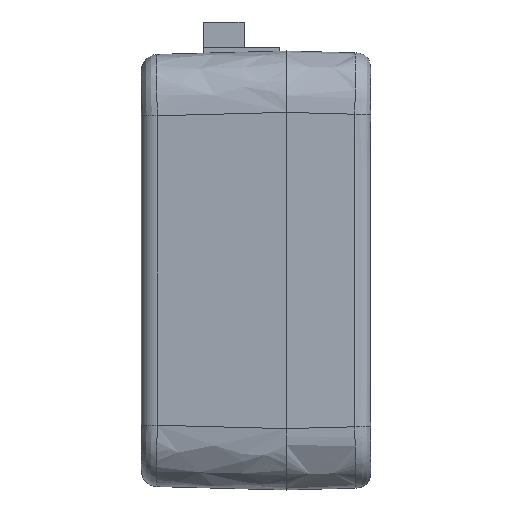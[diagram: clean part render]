
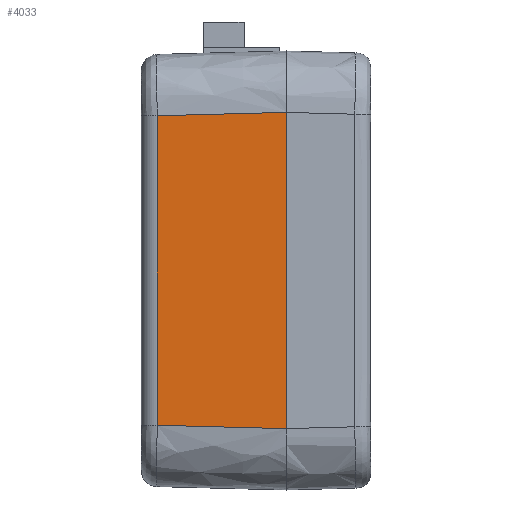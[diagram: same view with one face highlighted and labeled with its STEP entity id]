
A CAD part, left-side view. The second image highlights one B-rep face of the part: STEP entity #4033.
In plain terms, the highlighted planar face has unit normal (-1, 0.026, 0) as drawn and (1, -0.026, 0) by its records, which use the part's own axes.
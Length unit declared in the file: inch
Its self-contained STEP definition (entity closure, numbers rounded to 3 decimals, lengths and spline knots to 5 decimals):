
#69 = LINE ( 'NONE', #14320, #22550 ) ;
#143 = VERTEX_POINT ( 'NONE', #24218 ) ;
#906 = EDGE_LOOP ( 'NONE', ( #1282, #11756, #7355, #20438 ) ) ;
#1010 = VECTOR ( 'NONE', #6179, 39.37008 ) ;
#1282 = ORIENTED_EDGE ( 'NONE', *, *, #9935, .T. ) ;
#2441 = CARTESIAN_POINT ( 'NONE',  ( 0.66899, 0.04869, -0.47906 ) ) ;
#2471 = CARTESIAN_POINT ( 'NONE',  ( 0.67249, 0.18246, -0.48256 ) ) ;
#4033 = ADVANCED_FACE ( 'NONE', ( #24583 ), #6609, .T. ) ;
#6179 = DIRECTION ( 'NONE',  ( 0., 0., -1. ) ) ;
#6609 = PLANE ( 'NONE',  #20323 ) ;
#7355 = ORIENTED_EDGE ( 'NONE', *, *, #8866, .T. ) ;
#7415 = CARTESIAN_POINT ( 'NONE',  ( 0.66899, 0.04869, 0.47906 ) ) ;
#8200 = CARTESIAN_POINT ( 'NONE',  ( 0.6795, 0.45, 0.6795 ) ) ;
#8202 = DIRECTION ( 'NONE',  ( 0., 0., -1. ) ) ;
#8866 = EDGE_CURVE ( 'NONE', #18080, #9835, #16963, .T. ) ;
#9396 = CARTESIAN_POINT ( 'NONE',  ( 0.6795, 0.45, 0.48957 ) ) ;
#9835 = VERTEX_POINT ( 'NONE', #22745 ) ;
#9935 = EDGE_CURVE ( 'NONE', #11737, #143, #18248, .T. ) ;
#10329 = CARTESIAN_POINT ( 'NONE',  ( 0.676, 0.31623, -0.48606 ) ) ;
#10454 = CARTESIAN_POINT ( 'NONE',  ( 0.6795, 0.45, -0.48957 ) ) ;
#11144 = CARTESIAN_POINT ( 'NONE',  ( 0.676, 0.31623, 0.48606 ) ) ;
#11737 = VERTEX_POINT ( 'NONE', #17006 ) ;
#11756 = ORIENTED_EDGE ( 'NONE', *, *, #18137, .T. ) ;
#14320 = CARTESIAN_POINT ( 'NONE',  ( 0.66899, 0.04869, -0.47778 ) ) ;
#15550 = LINE ( 'NONE', #8200, #1010 ) ;
#16963 = B_SPLINE_CURVE_WITH_KNOTS ( 'NONE', 3,
 ( #20738, #2471, #10329, #10454 ),
 .UNSPECIFIED., .F., .F.,
 ( 4, 4 ),
 ( 0.1082, 1. ),
 .UNSPECIFIED. ) ;
#17006 = CARTESIAN_POINT ( 'NONE',  ( 0.6795, 0.45, 0.48957 ) ) ;
#17551 = CARTESIAN_POINT ( 'NONE',  ( 0.67249, 0.18246, 0.48256 ) ) ;
#18080 = VERTEX_POINT ( 'NONE', #2441 ) ;
#18137 = EDGE_CURVE ( 'NONE', #143, #18080, #69, .T. ) ;
#18248 = B_SPLINE_CURVE_WITH_KNOTS ( 'NONE', 3,
 ( #9396, #11144, #17551, #7415 ),
 .UNSPECIFIED., .F., .F.,
 ( 4, 4 ),
 ( 0., 0.8918 ),
 .UNSPECIFIED. ) ;
#20323 = AXIS2_PLACEMENT_3D ( 'NONE', #25107, #23121, #21006 ) ;
#20438 = ORIENTED_EDGE ( 'NONE', *, *, #24360, .F. ) ;
#20738 = CARTESIAN_POINT ( 'NONE',  ( 0.66899, 0.04869, -0.47906 ) ) ;
#21006 = DIRECTION ( 'NONE',  ( 0.026, 1., 0. ) ) ;
#22550 = VECTOR ( 'NONE', #8202, 39.37008 ) ;
#22745 = CARTESIAN_POINT ( 'NONE',  ( 0.6795, 0.45, -0.48957 ) ) ;
#23121 = DIRECTION ( 'NONE',  ( 1., -0.026, 0. ) ) ;
#24218 = CARTESIAN_POINT ( 'NONE',  ( 0.66899, 0.04869, 0.47906 ) ) ;
#24360 = EDGE_CURVE ( 'NONE', #11737, #9835, #15550, .T. ) ;
#24583 = FACE_OUTER_BOUND ( 'NONE', #906, .T. ) ;
#25107 = CARTESIAN_POINT ( 'NONE',  ( 0.6795, 0.45, 0.6795 ) ) ;
